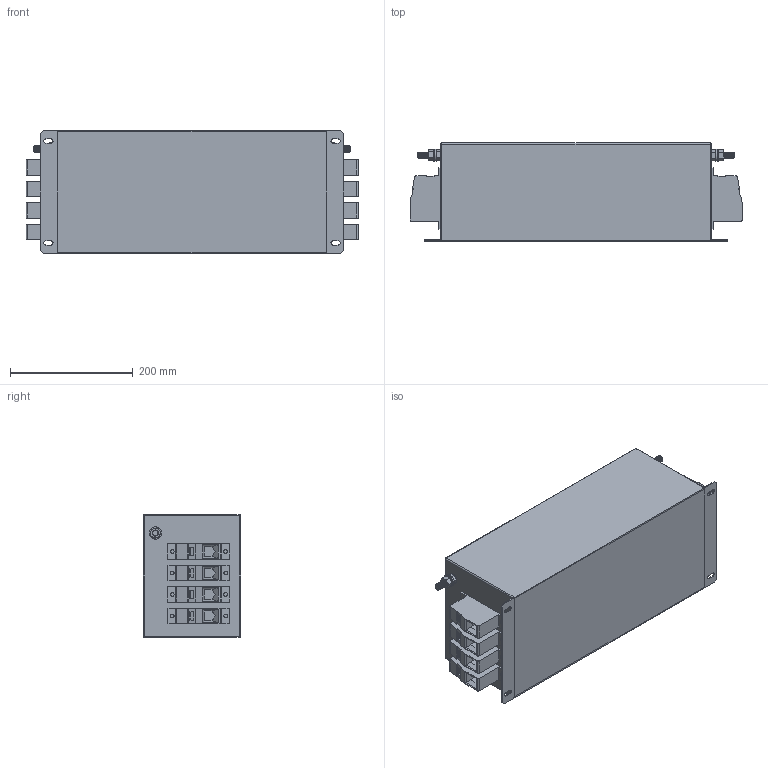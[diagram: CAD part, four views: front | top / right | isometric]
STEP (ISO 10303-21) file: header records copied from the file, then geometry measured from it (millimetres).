
FILE_DESCRIPTION (( 'STEP AP214' ), '1' );
FILE_NAME ('NF-DAR-125-4.STEP', '2019-05-16T12:27:17', ( '' ), ( '' ), 'SwSTEP 2.0', 'SolidWorks 2019', '' );
FILE_SCHEMA (( 'AUTOMOTIVE_DESIGN' ));
Length unit declared in the file: millimetre
Products named in the file (10): M10x30 Earth post.STEP; NF-DAR-125-4.STEP; hex screw_am_B18.6.7M - M10 x 1.5 x 30 Indented HHMS --30S.STEP; H BOX 4 PHASE DLC.STEP; Bodenplatte_125; flat washer narrow_am_B18.22M - Plain washer, 10 mm, narrow.STEP; HDFK-95.STEP; NF-DAR-125-4; hex nut style 1_am_B18.2.4.1M - Hex nut, Style 1,  M10 x 1.5, with 16mm WAF --D-N.STEP
Assembly tree (21 placements, depth 4):
  NF-DAR-125-4
    NF-DAR-125-4.STEP
      M10x30 Earth post.STEP
        flat washer narrow_am_B18.22M - Plain washer, 10 mm, narrow.STEP  x2
        hex nut style 1_am_B18.2.4.1M - Hex nut, Style 1,  M10 x 1.5, with 16mm WAF --D-N.STEP
        hex screw_am_B18.6.7M - M10 x 1.5 x 30 Indented HHMS --30S.STEP
      M10x30 Earth post.STEP
        flat washer narrow_am_B18.22M - Plain washer, 10 mm, narrow.STEP  x2
        hex nut style 1_am_B18.2.4.1M - Hex nut, Style 1,  M10 x 1.5, with 16mm WAF --D-N.STEP
        hex screw_am_B18.6.7M - M10 x 1.5 x 30 Indented HHMS --30S.STEP
      H BOX 4 PHASE DLC.STEP
      HDFK-95.STEP  x8
    Bodenplatte_125
Bounding box: 541 x 159.5 x 200 mm (x, y, z)
Volume: 1424160.3 mm3; surface area: 954563.6 mm2
Topology: 18 solids, 18 shells, 1101 faces, 2816 edges, 1808 vertices
Faces by surface type: plane 665, cylinder 232, cone 200, sphere 4
Entity records: 11694 total; most frequent: CARTESIAN_POINT 2415, DIRECTION 1934, ORIENTED_EDGE 1816, EDGE_CURVE 908, AXIS2_PLACEMENT_3D 683, VERTEX_POINT 578, LINE 568, VECTOR 568
